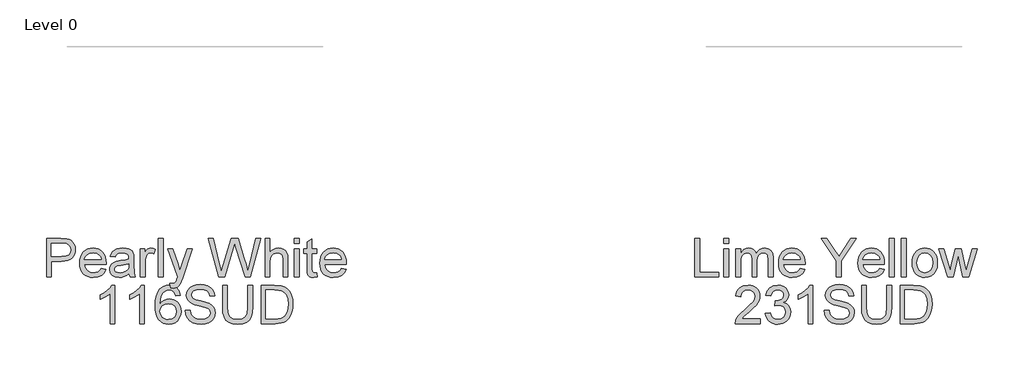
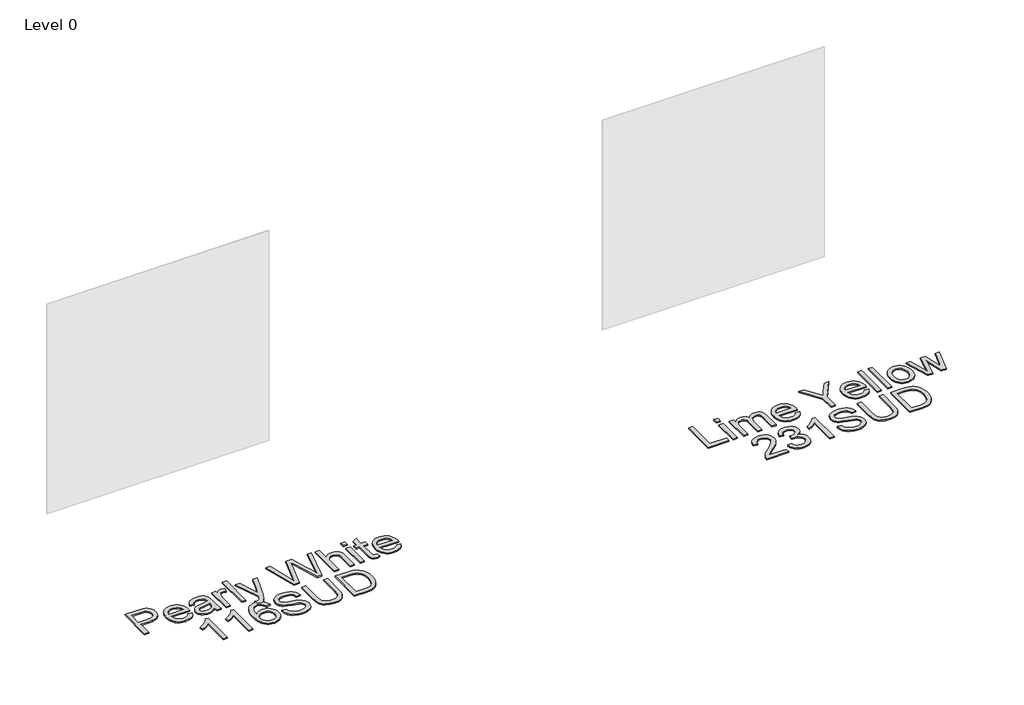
# One storey, part 13 of 37: 2 proxies.
"""IFC4 building model written with IfcOpenShell, lengths in millimetres."""

from ifc_helpers import new_model, si_unit, origin, origin_with_axes, place, context, project, spatial, polyline, outline, extrude, element, save

model = new_model("IFC4")

# Units and contexts
model_context = context("Model", 3, world=origin())
ifc_project = project(units=[si_unit("LENGTHUNIT", "METRE", prefix="MILLI")], contexts=[model_context])

# Site, building, storey
site = spatial("IfcSite", under=ifc_project)
building = spatial("IfcBuilding", under=site)
storey = spatial("IfcBuildingStorey", under=building, Name="Level 0", Elevation=0.0)

# Proxies
placement = place(None, origin())
element("IfcBuildingElementProxy", 1, Name="300mm Arial", ObjectType="300mm Arial", at=placement, inside=storey, context=model_context, shape_type="SweptSolid", body=[
    extrude(outline(polyline([(-611.3993275, -51871.860494), (-611.3993275, -51570.4915635), (-499.7103538, -51570.4915635), (-454.6815975, -51573.3610431), (-434.6044377, -51578.7229232), (-418.077339, -51587.4509235), (-404.7692078, -51599.9405172), (-394.3489503, -51616.5871775), (-387.6167098, -51636.222879), (-385.3726297, -51657.6795964), (-386.8878436, -51676.1794622), (-391.4334855, -51693.198603), (-399.0095554, -51708.7370188), (-409.6160531, -51722.7947095), (-424.1772824, -51734.4473717), (-443.6175465, -51742.7707019), (-467.9368457, -51747.7647), (-497.1351798, -51749.429366), (-573.7282112, -51749.429366), (-573.7282112, -51871.860494), (-611.3993275, -51871.860494)]), holes=[polyline([(-573.7282112, -51711.7582497), (-494.9278878, -51711.7582497), (-461.5242027, -51708.3001589), (-439.4512829, -51697.9258867), (-427.1456302, -51681.2792264), (-423.043746, -51659.0039716), (-425.4625701, -51642.0813998), (-432.7190424, -51627.8075784), (-443.9118521, -51617.0654241), (-458.1396883, -51610.7378538), (-495.8108046, -51608.1626798), (-573.7282112, -51608.1626798), (-573.7282112, -51711.7582497)])]), origin_with_axes(), (0.0, 0.0, 1.0), 10.0),
    extrude(outline(polyline([(-183.3318379, -51805.9360404), (-146.3964856, -51810.64493), (-159.7046168, -51838.4752029), (-180.9406049, -51859.2789297), (-209.6262035, -51872.2467701), (-245.2831659, -51876.5693835), (-268.6574682, -51874.7046817), (-289.4841876, -51869.1105761), (-307.7633242, -51859.7870668), (-323.4948781, -51846.7341537), (-336.1454202, -51830.3151204), (-345.1815217, -51810.8932503), (-350.6031826, -51788.4685435), (-352.4104029, -51763.0409998), (-350.5847885, -51736.7512327), (-345.1079453, -51713.5792656), (-335.9798733, -51693.5250983), (-323.2005725, -51676.5887309), (-307.5104054, -51663.133447), (-289.6497345, -51653.5225298), (-269.6185599, -51647.7559796), (-247.4168815, -51645.8337961), (-225.9302737, -51647.751381), (-206.4992065, -51653.5041357), (-189.1236801, -51663.0920602), (-173.8036942, -51676.5151545), (-161.2980057, -51693.4147337), (-152.365371, -51713.4321128), (-147.0057901, -51736.5672917), (-145.2192632, -51762.8202706), (-145.4399924, -51772.9738137), (-314.7392866, -51772.9738137), (-308.2185782, -51801.1719686), (-293.0710371, -51821.902119), (-271.2096495, -51834.6492302), (-244.5474019, -51838.8982672), (-224.4978332, -51836.9300985), (-207.6120496, -51831.0255925), (-193.8900512, -51820.8168671), (-183.3318379, -51805.9360404)]), holes=[polyline([(-314.7392866, -51735.3026974), (-182.8903795, -51735.3026974), (-187.9855451, -51715.4002814), (-197.9735413, -51701.1632482), (-219.9360964, -51687.9194964), (-247.5640343, -51683.5049125), (-272.957089, -51687.0273826), (-293.9539539, -51697.5947929), (-308.549672, -51714.0667092), (-314.7392866, -51735.3026974)])]), origin_with_axes(), (0.0, 0.0, 1.0), 10.0),
    extrude(outline(polyline([(33.7185393, -51843.6071568), (15.7199126, -51859.0398064), (-2.8121429, -51869.1381672), (-22.3006916, -51874.7115794), (-43.1687977, -51876.5693835), (-74.6502995, -51872.0996173), (-97.8728504, -51858.6903186), (-112.1926571, -51838.3280501), (-116.965926, -51812.9993748), (-115.1633042, -51797.3827841), (-109.7554389, -51783.2009331), (-101.4137146, -51771.0608273), (-90.8095161, -51761.5694718), (-64.4323771, -51749.2086368), (-31.8380323, -51743.5432541), (6.6792126, -51737.5835657), (33.4978101, -51730.5938078), (33.7185393, -51722.2060983), (31.1249712, -51705.3938912), (23.344267, -51694.3942195), (5.9434486, -51686.2272392), (-18.2999749, -51683.5049125), (-40.7407766, -51685.3167313), (-56.4125496, -51690.7521878), (-67.0995215, -51700.8045633), (-74.5859201, -51716.4671392), (-112.2570364, -51711.7582497), (-105.717934, -51691.1568579), (-95.959864, -51674.9700502), (-82.0723187, -51662.590821), (-63.1447901, -51653.4121652), (-39.9958155, -51647.7283884), (-13.4439325, -51645.8337961), (12.0226986, -51647.5076592), (32.2102231, -51652.5292485), (47.4313406, -51660.0800264), (57.9987509, -51669.3414556), (65.0069029, -51680.7917827), (69.5502456, -51694.9092543), (71.3896556, -51727.8714811), (71.3896556, -51774.7396473), (73.3026419, -51840.1858542), (80.8074346, -51871.860494), (43.1363183, -51871.860494), (33.7185393, -51843.6071568)]), holes=[polyline([(33.7185393, -51768.2649241), (-27.0555664, -51779.8164188), (-59.4659701, -51785.9232599), (-74.1444617, -51795.8560738), (-79.2948097, -51810.3506244), (-76.4897095, -51821.5526311), (-68.0744088, -51830.7312869), (-54.2328487, -51836.8565221), (-35.1489702, -51838.8982672), (-14.9154605, -51836.64499), (2.9636045, -51829.8851583), (17.4581551, -51819.9247533), (27.5381217, -51808.069756), (32.007888, -51795.8560738), (33.4978101, -51778.933502), (33.7185393, -51768.2649241)])]), origin_with_axes(), (0.0, 0.0, 1.0), 10.0),
    extrude(outline(polyline([(123.1874405, -51871.860494), (123.1874405, -51650.5426857), (156.1496672, -51650.5426857), (156.1496672, -51683.2841833), (168.3265613, -51664.3014723), (179.5469621, -51653.1178596), (190.8041512, -51647.654812), (203.0914098, -51645.8337961), (221.8533916, -51648.7400639), (240.9096789, -51657.4588672), (228.3281147, -51691.2304343), (215.0843629, -51685.4362929), (201.840611, -51683.5049125), (190.592619, -51685.3627165), (180.5402435, -51690.9361288), (172.4192485, -51699.8020848), (166.9653979, -51711.5375205), (162.3852671, -51732.5803706), (160.8585568, -51755.5362071), (160.8585568, -51871.860494), (123.1874405, -51871.860494)])), origin_with_axes(), (0.0, 0.0, 1.0), 10.0),
    extrude(outline(polyline([(264.4541266, -51871.860494), (264.4541266, -51570.4915635), (302.1252429, -51570.4915635), (302.1252429, -51871.860494), (264.4541266, -51871.860494)])), origin_with_axes(), (0.0, 0.0, 1.0), 10.0),
    extrude(outline(polyline([(358.6319174, -51956.6205057), (353.9230279, -51920.3473409), (373.0528916, -51923.6582789), (390.9319566, -51919.5012124), (401.89484, -51907.9129295), (412.1955359, -51880.1746271), (415.1385919, -51871.0511536), (335.0874697, -51650.5426857), (374.8187252, -51650.5426857), (417.2723074, -51773.4152721), (432.0611636, -51822.5643066), (446.8500198, -51779.1542312), (490.4808245, -51650.5426857), (529.9177743, -51650.5426857), (452.8832846, -51877.1579947), (432.870504, -51926.3070293), (422.6249905, -51941.9971964), (411.0183135, -51952.8681093), (397.5354384, -51959.2140737), (381.6613303, -51961.3293952), (358.6319174, -51956.6205057)])), origin_with_axes(), (0.0, 0.0, 1.0), 10.0),
    extrude(outline(polyline([(737.476796, -51871.860494), (655.2919583, -51570.4915635), (694.140297, -51570.4915635), (741.8178036, -51768.5592297), (756.5330834, -51829.7012173), (772.2784328, -51775.622564), (832.0224688, -51570.4915635), (888.0141085, -51570.4915635), (931.4241839, -51719.189466), (950.0206187, -51774.3717653), (963.7242231, -51829.7012173), (977.9980445, -51770.3250633), (1026.1170094, -51570.4915635), (1064.9653481, -51570.4915635), (982.706934, -51871.860494), (942.4606437, -51871.860494), (870.2086199, -51639.359073), (860.1286532, -51606.9118811), (848.7978878, -51645.9809489), (782.9470106, -51871.860494), (737.476796, -51871.860494)])), origin_with_axes(), (0.0, 0.0, 1.0), 10.0),
    extrude(outline(polyline([(1097.9275749, -51871.860494), (1097.9275749, -51570.4915635), (1135.5986912, -51570.4915635), (1135.5986912, -51681.2976205), (1149.4356527, -51665.7821973), (1164.9740685, -51654.6997522), (1182.2139385, -51648.0502852), (1201.1552627, -51645.8337961), (1223.9087641, -51648.2526203), (1243.4616922, -51655.5090926), (1258.8575537, -51667.0329961), (1269.1398555, -51682.2541137), (1274.9339969, -51703.1682051), (1276.8653774, -51731.7710302), (1276.8653774, -51871.860494), (1239.194261, -51871.860494), (1239.194261, -51735.6705794), (1236.1960228, -51712.0893435), (1227.201308, -51695.9393239), (1212.7067574, -51686.6135153), (1193.2090117, -51683.5049125), (1177.2889183, -51685.6018398), (1162.3437123, -51691.8926219), (1149.9644831, -51701.7702535), (1141.7423205, -51714.6277292), (1137.1345985, -51731.7158479), (1135.5986912, -51754.2854083), (1135.5986912, -51871.860494), (1097.9275749, -51871.860494)])), origin_with_axes(), (0.0, 0.0, 1.0), 10.0),
    extrude(outline(polyline([(1328.6631623, -51608.1626798), (1328.6631623, -51570.4915635), (1366.3342786, -51570.4915635), (1366.3342786, -51608.1626798), (1328.6631623, -51608.1626798)])), origin_with_axes(), (0.0, 0.0, 1.0), 10.0),
    extrude(outline(polyline([(1328.6631623, -51871.860494), (1328.6631623, -51650.5426857), (1366.3342786, -51650.5426857), (1366.3342786, -51871.860494), (1328.6631623, -51871.860494)])), origin_with_axes(), (0.0, 0.0, 1.0), 10.0),
    extrude(outline(polyline([(1502.8920752, -51840.4433716), (1507.6009647, -51872.96414), (1479.4212039, -51876.5693835), (1461.3398038, -51875.005885), (1447.8569287, -51870.3153896), (1438.328785, -51863.0865084), (1432.1115793, -51853.9078526), (1428.6902768, -51838.1441091), (1427.5498426, -51811.1599648), (1427.5498426, -51688.213802), (1399.2965053, -51688.213802), (1399.2965053, -51650.5426857), (1427.5498426, -51650.5426857), (1427.5498426, -51596.758338), (1465.2209589, -51574.6118419), (1465.2209589, -51650.5426857), (1502.8920752, -51650.5426857), (1502.8920752, -51688.213802), (1465.2209589, -51688.213802), (1465.2209589, -51810.0563188), (1467.2075217, -51829.4804881), (1473.6454566, -51836.3598814), (1486.4845382, -51838.8982672), (1502.8920752, -51840.4433716)])), origin_with_axes(), (0.0, 0.0, 1.0), 10.0),
    extrude(outline(polyline([(1695.5150879, -51805.9360404), (1732.4504402, -51810.64493), (1719.142309, -51838.4752029), (1697.9063208, -51859.2789297), (1669.2207223, -51872.2467701), (1633.5637599, -51876.5693835), (1610.1894576, -51874.7046817), (1589.3627382, -51869.1105761), (1571.0836015, -51859.7870668), (1555.3520477, -51846.7341537), (1542.7015056, -51830.3151204), (1533.6654041, -51810.8932503), (1528.2437432, -51788.4685435), (1526.4365229, -51763.0409998), (1528.2621373, -51736.7512327), (1533.7389805, -51713.5792656), (1542.8670525, -51693.5250983), (1555.6463533, -51676.5887309), (1571.3365204, -51663.133447), (1589.1971913, -51653.5225298), (1609.2283659, -51647.7559796), (1631.4300443, -51645.8337961), (1652.9166521, -51647.751381), (1672.3477192, -51653.5041357), (1689.7232457, -51663.0920602), (1705.0432315, -51676.5151545), (1717.5489201, -51693.4147337), (1726.4815548, -51713.4321128), (1731.8411356, -51736.5672917), (1733.6276626, -51762.8202706), (1733.4069334, -51772.9738137), (1564.1076392, -51772.9738137), (1570.6283476, -51801.1719686), (1585.7758887, -51821.902119), (1607.6372763, -51834.6492302), (1634.2995239, -51838.8982672), (1654.3490926, -51836.9300985), (1671.2348762, -51831.0255925), (1684.9568746, -51820.8168671), (1695.5150879, -51805.9360404)]), holes=[polyline([(1564.1076392, -51735.3026974), (1695.9565463, -51735.3026974), (1690.8613806, -51715.4002814), (1680.8733845, -51701.1632482), (1658.9108293, -51687.9194964), (1631.2828915, -51683.5049125), (1605.8898368, -51687.0273826), (1584.8929719, -51697.5947929), (1570.2972538, -51714.0667092), (1564.1076392, -51735.3026974)])]), origin_with_axes(), (0.0, 0.0, 1.0), 10.0),
    extrude(outline(polyline([(-76.9403649, -52237.7849475), (-114.6114812, -52237.7849475), (-114.6114812, -52002.9290818), (-150.2960347, -52028.3497277), (-189.9537138, -52047.3692268), (-189.9537138, -52011.7582497), (-160.3668044, -51995.6634124), (-134.7346263, -51976.5151545), (-114.5287078, -51956.1528861), (-101.2205766, -51936.4160171), (-76.9403649, -51936.4160171), (-76.9403649, -52237.7849475)])), origin_with_axes(), (0.0, 0.0, 1.0), 10.0),
    extrude(outline(polyline([(153.7952225, -52237.7849475), (116.1241062, -52237.7849475), (116.1241062, -52002.9290818), (80.4395526, -52028.3497277), (40.7818736, -52047.3692268), (40.7818736, -52011.7582497), (70.368783, -51995.6634124), (96.000961, -51976.5151545), (116.2068796, -51956.1528861), (129.5150108, -51936.4160171), (153.7952225, -51936.4160171), (153.7952225, -52237.7849475)])), origin_with_axes(), (0.0, 0.0, 1.0), 10.0),
    extrude(outline(polyline([(436.3285948, -52016.4671392), (398.6574785, -52021.1760288), (392.5874255, -52002.5060175), (384.3836571, -51989.7589064), (367.2955384, -51978.0050766), (346.6389644, -51974.0871334), (329.1277814, -51976.3680017), (312.646668, -51983.2106069), (298.4924082, -51997.622384), (286.9317165, -52017.4604206), (279.1234212, -52045.5206198), (276.2263505, -52084.5988847), (291.3371034, -52066.9681401), (309.4460946, -52054.5429257), (329.5416486, -52047.1760888), (350.6120899, -52044.7204764), (368.7118841, -52046.3989381), (385.4137266, -52051.4343229), (400.7176176, -52059.8266309), (414.6235571, -52071.5758621), (426.1796502, -52085.9830407), (434.4340025, -52102.349191), (439.3866139, -52120.6743129), (441.0374843, -52140.9584064), (437.9288815, -52167.9333537), (428.6030729, -52192.9401323), (413.8326108, -52214.1485293), (394.3900473, -52229.7283318), (371.1582993, -52239.3024607), (345.0202836, -52242.4938371), (322.563387, -52240.3785156), (302.2815928, -52234.0325512), (284.1749008, -52223.4559438), (268.2433112, -52208.6486935), (255.2547775, -52188.9854009), (245.9772534, -52163.8406665), (240.410739, -52133.2144904), (238.5552342, -52097.1068726), (240.6153733, -52056.6260575), (246.7957909, -52022.0773396), (257.0964867, -51993.4607189), (271.5174609, -51970.7761954), (287.1478472, -51955.7436174), (305.270634, -51945.0060617), (325.8858213, -51938.5635282), (348.9934091, -51936.4160171), (382.0476064, -51941.7319119), (408.5167159, -51957.6795964), (427.0579685, -51983.0082718), (436.3285948, -52016.4671392)]), holes=[polyline([(276.2263505, -52140.3697952), (278.4060513, -52157.0624407), (284.9451538, -52173.0009282), (295.0986968, -52186.7045325), (308.1217195, -52196.6925287), (323.8394777, -52202.7901727), (342.0772276, -52204.8227207), (366.9368534, -52200.6104719), (386.4805844, -52187.9737254), (399.1449221, -52168.1080976), (403.366368, -52142.2092052), (399.2001044, -52117.3495793), (386.7013136, -52098.3944595), (366.8264888, -52086.3923095), (340.5321232, -52082.3915928), (315.7092856, -52086.3923095), (294.951544, -52098.3944595), (280.9076489, -52116.8897269), (276.2263505, -52140.3697952)])]), origin_with_axes(), (0.0, 0.0, 1.0), 10.0),
    extrude(outline(polyline([(473.9997111, -52134.1893777), (511.6708274, -52134.1893777), (515.9934408, -52155.0942721), (523.8109332, -52171.8972822), (536.0062214, -52185.2330045), (553.462222, -52195.7360355), (574.7993778, -52202.5510494), (598.638131, -52204.8227207), (619.6257989, -52203.1028724), (638.0015045, -52197.9433274), (652.8915283, -52189.7763471), (663.4221504, -52179.0341929), (669.6853414, -52166.700949), (671.7730717, -52153.7606998), (670.2095732, -52141.1515444), (665.5190778, -52130.2530403), (655.9909341, -52120.9548229), (639.9144909, -52113.1465276), (585.0632854, -52098.7623415), (549.0568351, -52089.2433949), (526.0182252, -52080.1843008), (507.2654405, -52067.510766), (493.9757034, -52052.1516928), (486.0570435, -52034.4381747), (483.4174902, -52014.7013056), (486.6824429, -51992.637583), (496.477301, -51972.0637824), (512.5445471, -51954.6261758), (534.6266639, -51941.9710352), (561.1325616, -51934.2731044), (590.4711508, -51931.7071275), (622.2561551, -51934.3926661), (650.068034, -51942.4492818), (672.9135059, -51955.7114277), (689.7992895, -51974.013557), (700.4862614, -51996.2152354), (704.7352985, -52021.1760288), (667.0641821, -52021.1760288), (660.1480006, -51998.6984389), (645.7270264, -51982.4748429), (623.1942542, -51972.6523936), (591.9426787, -51969.3782438), (559.9553393, -51972.6156054), (538.0111782, -51982.3276901), (525.3192494, -51996.6199056), (521.0886065, -52013.5976597), (524.0868447, -52028.0738162), (533.0815595, -52039.7172813), (554.3451388, -52050.1283418), (594.5914291, -52060.7601314), (636.1253064, -52070.8584922), (661.2516466, -52079.669266), (682.7267581, -52093.3360821), (697.7087523, -52110.2034716), (706.5103291, -52130.0874934), (709.444188, -52152.8042066), (706.0688707, -52176.0267576), (695.9429188, -52197.869751), (679.4801995, -52216.668521), (657.0945801, -52230.7584014), (630.1748151, -52239.5599781), (600.109659, -52242.4938371), (563.2018979, -52239.3300519), (532.8240421, -52229.8386964), (508.6266039, -52213.9829824), (490.2600953, -52191.7261217), (478.4694773, -52164.6132187), (473.9997111, -52134.1893777)])), origin_with_axes(), (0.0, 0.0, 1.0), 10.0),
    extrude(outline(polyline([(963.7242231, -51936.4160171), (1001.3953394, -51936.4160171), (1001.3953394, -52110.277048), (998.8385595, -52150.9923878), (991.1682199, -52182.3451308), (976.8392162, -52206.533372), (954.306444, -52225.7552063), (923.514721, -52238.3091794), (884.4088649, -52242.4938371), (846.1583345, -52238.8518053), (815.5781436, -52227.92571), (792.6590953, -52210.0926303), (777.3919925, -52185.7296452), (768.811145, -52153.052527), (765.9508625, -52110.277048), (765.9508625, -51936.4160171), (803.6219788, -51936.4160171), (803.6219788, -52108.9526728), (805.4797828, -52142.8070134), (811.0531951, -52166.3790523), (821.1515558, -52182.7038158), (836.5842055, -52194.8163305), (856.7073507, -52202.3211232), (880.8771977, -52204.8227207), (919.1921075, -52199.8747079), (933.5349068, -52193.6896919), (944.6679357, -52185.0306694), (953.0050614, -52172.8537754), (958.9601512, -52156.1151446), (963.7242231, -52108.9526728), (963.7242231, -51936.4160171)])), origin_with_axes(), (0.0, 0.0, 1.0), 10.0),
    extrude(outline(polyline([(1067.3197929, -52237.7849475), (1067.3197929, -51936.4160171), (1171.2832447, -51936.4160171), (1225.0675924, -51940.7570246), (1249.0902867, -51949.12634), (1269.3605847, -51962.3149095), (1290.2010997, -51985.270746), (1305.0451382, -52013.8183889), (1313.9294884, -52047.406015), (1316.8909384, -52085.4818015), (1314.8859816, -52117.8278259), (1308.8711109, -52146.2926953), (1299.7108493, -52170.5269217), (1288.2697192, -52190.1810173), (1275.0995438, -52205.6964405), (1260.752146, -52217.5146496), (1244.2802296, -52226.2794381), (1224.7364986, -52232.6345996), (1176.2864399, -52237.7849475), (1067.3197929, -52237.7849475)]), holes=[polyline([(1104.9909092, -52200.1138312), (1171.6511267, -52200.1138312), (1199.2238823, -52198.7526678), (1220.1379737, -52194.6691777), (1235.9201113, -52188.1024841), (1248.0970053, -52179.2917103), (1261.1844073, -52162.9853408), (1271.0160536, -52141.8781114), (1277.16888, -52115.8780514), (1279.2198221, -52084.8931903), (1275.2007113, -52043.8375597), (1263.1433789, -52013.5240833), (1245.3286933, -51992.7019623), (1224.0375228, -51980.1203981), (1202.3692733, -51975.5954496), (1170.6210571, -51974.0871334), (1104.9909092, -51974.0871334), (1104.9909092, -52200.1138312)])]), origin_with_axes(), (0.0, 0.0, 1.0), 10.0),
])
element("IfcBuildingElementProxy", 2, Name="300mm Arial", ObjectType="300mm Arial", at=placement, inside=storey, context=model_context, shape_type="SweptSolid", body=[
    extrude(outline(polyline([(4461.5884604, -51871.860494), (4461.5884604, -51570.4915635), (4499.2595767, -51570.4915635), (4499.2595767, -51834.1893777), (4649.9440419, -51834.1893777), (4649.9440419, -51871.860494), (4461.5884604, -51871.860494)])), origin_with_axes(), (0.0, 0.0, 1.0), 10.0),
    extrude(outline(polyline([(4687.6151582, -51871.860494), (4687.6151582, -51650.5426857), (4725.2862745, -51650.5426857), (4725.2862745, -51871.860494), (4687.6151582, -51871.860494)])), origin_with_axes(), (0.0, 0.0, 1.0), 10.0),
    extrude(outline(polyline([(4687.6151582, -51608.1626798), (4687.6151582, -51570.4915635), (4725.2862745, -51570.4915635), (4725.2862745, -51608.1626798), (4687.6151582, -51608.1626798)])), origin_with_axes(), (0.0, 0.0, 1.0), 10.0),
    extrude(outline(polyline([(4781.792949, -51871.860494), (4781.792949, -51650.5426857), (4819.4640653, -51650.5426857), (4819.4640653, -51686.9630032), (4830.7948307, -51670.2335695), (4845.3629577, -51657.1277734), (4862.6718056, -51648.6572905), (4882.2247336, -51645.8337961), (4903.1756133, -51648.7124728), (4919.9694263, -51657.3485026), (4932.5142024, -51671.1716686), (4940.7179709, -51689.6117536), (4954.4491663, -51670.4588972), (4970.1117423, -51656.7782855), (4987.7056987, -51648.5699185), (5007.2310356, -51645.8337961), (5035.5487522, -51650.3863358), (5056.4904348, -51664.0439549), (5069.4306839, -51687.1745354), (5073.7441003, -51720.1459592), (5073.7441003, -51871.860494), (5036.072984, -51871.860494), (5036.072984, -51736.332767), (5032.5781051, -51704.8788564), (5027.6668804, -51696.2060383), (5019.9229644, -51689.3910244), (5009.9625594, -51684.9764404), (4998.4018677, -51683.5049125), (4977.993614, -51687.2757029), (4961.3561508, -51698.5880743), (4950.2920998, -51718.2145787), (4946.6040828, -51746.9277684), (4946.6040828, -51871.860494), (4908.9329665, -51871.860494), (4908.9329665, -51732.1389122), (4906.7532657, -51710.8385447), (4900.2141632, -51695.6450183), (4888.7086538, -51686.5399389), (4871.6297322, -51683.5049125), (4857.1167875, -51685.5282634), (4843.7442769, -51691.5983163), (4832.7078171, -51701.5679184), (4825.2030244, -51715.2899168), (4820.898805, -51734.3278101), (4819.4640653, -51760.2450966), (4819.4640653, -51871.860494), (4781.792949, -51871.860494)])), origin_with_axes(), (0.0, 0.0, 1.0), 10.0),
    extrude(outline(polyline([(5285.2026712, -51805.9360404), (5322.1380235, -51810.64493), (5308.8298923, -51838.4752029), (5287.5939041, -51859.2789297), (5258.9083056, -51872.2467701), (5223.2513432, -51876.5693835), (5199.8770409, -51874.7046817), (5179.0503214, -51869.1105761), (5160.7711848, -51859.7870668), (5145.039631, -51846.7341537), (5132.3890889, -51830.3151204), (5123.3529874, -51810.8932503), (5117.9313265, -51788.4685435), (5116.1241062, -51763.0409998), (5117.9497206, -51736.7512327), (5123.4265638, -51713.5792656), (5132.5546358, -51693.5250983), (5145.3339366, -51676.5887309), (5161.0241037, -51663.133447), (5178.8847745, -51653.5225298), (5198.9159492, -51647.7559796), (5221.1176276, -51645.8337961), (5242.6042354, -51647.751381), (5262.0353025, -51653.5041357), (5279.410829, -51663.0920602), (5294.7308148, -51676.5151545), (5307.2365034, -51693.4147337), (5316.1691381, -51713.4321128), (5321.5287189, -51736.5672917), (5323.3152459, -51762.8202706), (5323.0945167, -51772.9738137), (5153.7952225, -51772.9738137), (5160.3159308, -51801.1719686), (5175.463472, -51821.902119), (5197.3248596, -51834.6492302), (5223.9871072, -51838.8982672), (5244.0366759, -51836.9300985), (5260.9224595, -51831.0255925), (5274.6444579, -51820.8168671), (5285.2026712, -51805.9360404)]), holes=[polyline([(5153.7952225, -51735.3026974), (5285.6441295, -51735.3026974), (5280.5489639, -51715.4002814), (5270.5609677, -51701.1632482), (5248.5984126, -51687.9194964), (5220.9704748, -51683.5049125), (5195.5774201, -51687.0273826), (5174.5805552, -51697.5947929), (5159.984837, -51714.0667092), (5153.7952225, -51735.3026974)])]), origin_with_axes(), (0.0, 0.0, 1.0), 10.0),
    extrude(outline(polyline([(5568.1775018, -51871.860494), (5568.1775018, -51744.2054417), (5450.4552634, -51570.4915635), (5494.8954084, -51570.4915635), (5557.7296532, -51663.2714027), (5589.8825396, -51710.5810273), (5622.1090023, -51659.8868884), (5679.1307116, -51570.4915635), (5723.5708566, -51570.4915635), (5605.8486182, -51744.2054417), (5605.8486182, -51871.860494), (5568.1775018, -51871.860494)])), origin_with_axes(), (0.0, 0.0, 1.0), 10.0),
    extrude(outline(polyline([(5906.7760902, -51805.9360404), (5943.7114425, -51810.64493), (5930.4033113, -51838.4752029), (5909.1673232, -51859.2789297), (5880.4817246, -51872.2467701), (5844.8247622, -51876.5693835), (5821.4504599, -51874.7046817), (5800.6237405, -51869.1105761), (5782.3446039, -51859.7870668), (5766.61305, -51846.7341537), (5753.9625079, -51830.3151204), (5744.9264064, -51810.8932503), (5739.5047455, -51788.4685435), (5737.6975252, -51763.0409998), (5739.5231396, -51736.7512327), (5744.9999828, -51713.5792656), (5754.1280548, -51693.5250983), (5766.9073556, -51676.5887309), (5782.5975227, -51663.133447), (5800.4581936, -51653.5225298), (5820.4893682, -51647.7559796), (5842.6910466, -51645.8337961), (5864.1776544, -51647.751381), (5883.6087216, -51653.5041357), (5900.984248, -51663.0920602), (5916.3042339, -51676.5151545), (5928.8099225, -51693.4147337), (5937.7425572, -51713.4321128), (5943.102138, -51736.5672917), (5944.8886649, -51762.8202706), (5944.6679357, -51772.9738137), (5775.3686415, -51772.9738137), (5781.8893499, -51801.1719686), (5797.036891, -51821.902119), (5818.8982786, -51834.6492302), (5845.5605262, -51838.8982672), (5865.6100949, -51836.9300985), (5882.4958785, -51831.0255925), (5896.2178769, -51820.8168671), (5906.7760902, -51805.9360404)]), holes=[polyline([(5775.3686415, -51735.3026974), (5907.2175486, -51735.3026974), (5902.122383, -51715.4002814), (5892.1343868, -51701.1632482), (5870.1718317, -51687.9194964), (5842.5438938, -51683.5049125), (5817.1508391, -51687.0273826), (5796.1539743, -51697.5947929), (5781.5582561, -51714.0667092), (5775.3686415, -51735.3026974)])]), origin_with_axes(), (0.0, 0.0, 1.0), 10.0),
    extrude(outline(polyline([(5982.5597812, -51871.860494), (5982.5597812, -51570.4915635), (6020.2308975, -51570.4915635), (6020.2308975, -51871.860494), (5982.5597812, -51871.860494)])), origin_with_axes(), (0.0, 0.0, 1.0), 10.0),
    extrude(outline(polyline([(6076.737572, -51871.860494), (6076.737572, -51570.4915635), (6114.4086883, -51570.4915635), (6114.4086883, -51871.860494), (6076.737572, -51871.860494)])), origin_with_axes(), (0.0, 0.0, 1.0), 10.0),
    extrude(outline(polyline([(6161.4975837, -51761.2015898), (6163.5347302, -51732.5389839), (6169.6461699, -51707.8403064), (6179.8319026, -51687.1055575), (6194.0919284, -51670.334737), (6208.4485233, -51659.6155754), (6224.2950402, -51651.9590314), (6241.6314793, -51647.3651049), (6260.4578404, -51645.8337961), (6281.2408738, -51647.698498), (6300.032746, -51653.2926036), (6316.8334569, -51662.6161129), (6331.6430064, -51675.669026), (6343.7302292, -51692.0098843), (6352.3639598, -51711.1972296), (6357.5441982, -51733.2310619), (6359.2709443, -51758.1113811), (6356.2175237, -51796.1687735), (6347.057262, -51825.1394806), (6332.0568737, -51846.8353213), (6311.4830731, -51863.0681143), (6287.0465116, -51873.1940662), (6260.4578404, -51876.5693835), (6239.3713043, -51874.7115794), (6220.4046881, -51869.1381672), (6203.557992, -51859.8491468), (6188.8312159, -51846.8445183), (6176.8727518, -51830.3450108), (6168.3309917, -51810.5713536), (6163.2059357, -51787.5235466), (6161.4975837, -51761.2015898)]), holes=[polyline([(6199.1687, -51761.1280134), (6203.5281016, -51795.2214773), (6216.6063065, -51819.5108861), (6236.2879933, -51834.0514219), (6260.4578404, -51838.8982672), (6284.5173229, -51834.0238308), (6304.1622214, -51819.4005215), (6317.2404263, -51794.789216), (6321.599828, -51759.950791), (6317.2128352, -51726.8506085), (6304.0518568, -51702.8922936), (6284.3793671, -51688.3517577), (6260.4578404, -51683.5049125), (6236.2879933, -51688.3333636), (6216.6063065, -51702.8187172), (6203.5281016, -51727.0529436), (6199.1687, -51761.1280134)])]), origin_with_axes(), (0.0, 0.0, 1.0), 10.0),
    extrude(outline(polyline([(6438.3655732, -51871.860494), (6371.0431681, -51650.5426857), (6410.1858124, -51650.5426857), (6448.3719635, -51779.669266), (6459.7763054, -51825.8016682), (6469.120508, -51781.3615232), (6499.5075608, -51650.5426857), (6544.3891642, -51650.5426857), (6574.6290643, -51780.9936412), (6582.9431973, -51821.2399314), (6594.862574, -51778.7863492), (6633.1223015, -51650.5426857), (6672.4120986, -51650.5426857), (6604.5746587, -51871.860494), (6559.0308677, -51871.860494), (6530.1153428, -51742.0717261), (6521.7276333, -51701.6047066), (6484.424399, -51871.860494), (6438.3655732, -51871.860494)])), origin_with_axes(), (0.0, 0.0, 1.0), 10.0),
    extrude(outline(polyline([(4974.85742, -52200.1138312), (4974.85742, -52237.7849475), (4777.0840594, -52237.7849475), (4781.1307614, -52211.8124787), (4790.4197817, -52191.5145896), (4804.0130215, -52171.8237058), (4823.6763141, -52151.213117), (4851.1754932, -52128.156113), (4891.8264537, -52092.0484951), (4916.21703, -52065.3954446), (4928.4123181, -52043.7639833), (4932.4774142, -52022.7211331), (4928.6422444, -52003.8579838), (4917.136735, -51988.1770138), (4899.4508081, -51977.6096035), (4877.0743857, -51974.0871334), (4853.5759233, -51977.52683), (4835.3197793, -51987.84592), (4823.5383584, -52004.2350629), (4819.4640653, -52025.8849183), (4781.792949, -52021.1760288), (4790.9256195, -51984.7373171), (4799.4719781, -51970.2013798), (4810.6716856, -51958.1210548), (4824.2672246, -51948.6251008), (4840.0010776, -51941.8422765), (4877.8837261, -51936.4160171), (4898.0735498, -51937.9243332), (4916.042286, -51942.4492818), (4931.7899347, -51949.9908627), (4945.3164958, -51960.549076), (4956.180511, -51973.3421723), (4963.9405218, -51987.5884026), (4968.5965283, -52003.2877667), (4970.1485305, -52020.4402648), (4968.4746674, -52038.4572855), (4963.4530782, -52056.1616065), (4954.5411368, -52074.1694302), (4941.1962175, -52093.0969588), (4919.9234411, -52115.6941104), (4887.2279288, -52144.7108027), (4843.8914297, -52180.9471793), (4826.8952816, -52200.1138312), (4974.85742, -52200.1138312)])), origin_with_axes(), (0.0, 0.0, 1.0), 10.0),
    extrude(outline(polyline([(5012.5285363, -52157.7338254), (5050.1996526, -52153.0249358), (5058.6333474, -52176.6981422), (5070.9849854, -52192.6826149), (5087.8615719, -52201.7876943), (5109.8701123, -52204.8227207), (5135.6954283, -52200.6472601), (5155.6346325, -52188.1208782), (5168.3817436, -52169.4324728), (5172.6307806, -52146.7709419), (5168.4185318, -52125.2590422), (5155.7817853, -52107.8122386), (5136.6519215, -52096.2515469), (5112.960321, -52092.397983), (5086.5463938, -52096.5182614), (5090.7402485, -52058.8471451), (5096.7735132, -52059.2886035), (5119.3430736, -52056.5846708), (5139.5214011, -52048.4728728), (5153.7584343, -52034.7508744), (5158.504112, -52015.2163404), (5155.0644154, -51998.9467592), (5144.7453254, -51985.7489926), (5128.999976, -51977.0025982), (5109.2815011, -51974.0871334), (5089.5262379, -51977.0301893), (5073.3762183, -51985.8593572), (5061.5856004, -52000.574637), (5054.9085422, -52021.1760288), (5017.2374259, -52016.4671392), (5028.329068, -51982.6403898), (5048.0659371, -51957.3852908), (5075.0684755, -51941.6583355), (5107.9571259, -51936.4160171), (5131.6395293, -51939.0003881), (5153.3905523, -51946.7535011), (5171.7294697, -51958.9855775), (5185.1755567, -51975.0068384), (5193.4253104, -51993.4653175), (5196.1752283, -52013.0090485), (5193.5632662, -52031.2192072), (5185.7273797, -52047.7371088), (5172.7779334, -52061.8085951), (5154.8252921, -52072.6795081), (5178.406528, -52082.2076518), (5195.8809227, -52098.4312477), (5206.6966534, -52120.4673793), (5210.3018969, -52147.4331295), (5208.4992752, -52166.5445992), (5203.0914098, -52184.1477526), (5194.078301, -52200.2425899), (5181.4599485, -52214.829111), (5166.0870796, -52226.9324287), (5148.8104214, -52235.5776555), (5129.6299739, -52240.7647917), (5108.5457371, -52242.4938371), (5089.4894497, -52241.0177105), (5072.1254195, -52236.589331), (5056.4536466, -52229.2086985), (5042.4741307, -52218.875813), (5030.7524907, -52206.1976797), (5021.8543449, -52191.781304), (5015.7796935, -52175.6266859), (5012.5285363, -52157.7338254)])), origin_with_axes(), (0.0, 0.0, 1.0), 10.0),
    extrude(outline(polyline([(5384.5308099, -52237.7849475), (5346.8596935, -52237.7849475), (5346.8596935, -52002.9290818), (5311.17514, -52028.3497277), (5271.5174609, -52047.3692268), (5271.5174609, -52011.7582497), (5301.1043704, -51995.6634124), (5326.7365484, -51976.5151545), (5346.942467, -51956.1528861), (5360.2505982, -51936.4160171), (5384.5308099, -51936.4160171), (5384.5308099, -52237.7849475)])), origin_with_axes(), (0.0, 0.0, 1.0), 10.0),
    extrude(outline(polyline([(5473.9997111, -52134.1893777), (5511.6708274, -52134.1893777), (5515.9934408, -52155.0942721), (5523.8109332, -52171.8972822), (5536.0062214, -52185.2330045), (5553.462222, -52195.7360355), (5574.7993778, -52202.5510494), (5598.638131, -52204.8227207), (5619.6257989, -52203.1028724), (5638.0015045, -52197.9433274), (5652.8915283, -52189.7763471), (5663.4221504, -52179.0341929), (5669.6853414, -52166.700949), (5671.7730717, -52153.7606998), (5670.2095732, -52141.1515444), (5665.5190778, -52130.2530403), (5655.9909341, -52120.9548229), (5639.9144909, -52113.1465276), (5585.0632854, -52098.7623415), (5549.0568351, -52089.2433949), (5526.0182252, -52080.1843008), (5507.2654405, -52067.510766), (5493.9757034, -52052.1516928), (5486.0570435, -52034.4381747), (5483.4174902, -52014.7013056), (5486.6824429, -51992.637583), (5496.477301, -51972.0637824), (5512.5445471, -51954.6261758), (5534.6266639, -51941.9710352), (5561.1325616, -51934.2731044), (5590.4711508, -51931.7071275), (5622.2561551, -51934.3926661), (5650.068034, -51942.4492818), (5672.9135059, -51955.7114277), (5689.7992895, -51974.013557), (5700.4862614, -51996.2152354), (5704.7352985, -52021.1760288), (5667.0641821, -52021.1760288), (5660.1480006, -51998.6984389), (5645.7270264, -51982.4748429), (5623.1942542, -51972.6523936), (5591.9426787, -51969.3782438), (5559.9553393, -51972.6156054), (5538.0111782, -51982.3276901), (5525.3192494, -51996.6199056), (5521.0886065, -52013.5976597), (5524.0868447, -52028.0738162), (5533.0815595, -52039.7172813), (5554.3451388, -52050.1283418), (5594.5914291, -52060.7601314), (5636.1253064, -52070.8584922), (5661.2516466, -52079.669266), (5682.7267581, -52093.3360821), (5697.7087523, -52110.2034716), (5706.5103291, -52130.0874934), (5709.444188, -52152.8042066), (5706.0688707, -52176.0267576), (5695.9429188, -52197.869751), (5679.4801995, -52216.668521), (5657.0945801, -52230.7584014), (5630.1748151, -52239.5599781), (5600.109659, -52242.4938371), (5563.2018979, -52239.3300519), (5532.8240421, -52229.8386964), (5508.6266039, -52213.9829824), (5490.2600953, -52191.7261217), (5478.4694773, -52164.6132187), (5473.9997111, -52134.1893777)])), origin_with_axes(), (0.0, 0.0, 1.0), 10.0),
    extrude(outline(polyline([(5963.7242231, -51936.4160171), (6001.3953394, -51936.4160171), (6001.3953394, -52110.277048), (5998.8385595, -52150.9923878), (5991.1682199, -52182.3451308), (5976.8392162, -52206.533372), (5954.306444, -52225.7552063), (5923.514721, -52238.3091794), (5884.4088649, -52242.4938371), (5846.1583345, -52238.8518053), (5815.5781436, -52227.92571), (5792.6590953, -52210.0926303), (5777.3919925, -52185.7296452), (5768.811145, -52153.052527), (5765.9508625, -52110.277048), (5765.9508625, -51936.4160171), (5803.6219788, -51936.4160171), (5803.6219788, -52108.9526728), (5805.4797828, -52142.8070134), (5811.0531951, -52166.3790523), (5821.1515558, -52182.7038158), (5836.5842055, -52194.8163305), (5856.7073507, -52202.3211232), (5880.8771977, -52204.8227207), (5919.1921075, -52199.8747079), (5933.5349068, -52193.6896919), (5944.6679357, -52185.0306694), (5953.0050614, -52172.8537754), (5958.9601512, -52156.1151446), (5963.7242231, -52108.9526728), (5963.7242231, -51936.4160171)])), origin_with_axes(), (0.0, 0.0, 1.0), 10.0),
    extrude(outline(polyline([(6067.3197929, -52237.7849475), (6067.3197929, -51936.4160171), (6171.2832447, -51936.4160171), (6225.0675924, -51940.7570246), (6249.0902867, -51949.12634), (6269.3605847, -51962.3149095), (6290.2010997, -51985.270746), (6305.0451382, -52013.8183889), (6313.9294884, -52047.406015), (6316.8909384, -52085.4818015), (6314.8859816, -52117.8278259), (6308.8711109, -52146.2926953), (6299.7108493, -52170.5269217), (6288.2697192, -52190.1810173), (6275.0995438, -52205.6964405), (6260.752146, -52217.5146496), (6244.2802296, -52226.2794381), (6224.7364986, -52232.6345996), (6176.2864399, -52237.7849475), (6067.3197929, -52237.7849475)]), holes=[polyline([(6104.9909092, -52200.1138312), (6171.6511267, -52200.1138312), (6199.2238823, -52198.7526678), (6220.1379737, -52194.6691777), (6235.9201113, -52188.1024841), (6248.0970053, -52179.2917103), (6261.1844073, -52162.9853408), (6271.0160536, -52141.8781114), (6277.16888, -52115.8780514), (6279.2198221, -52084.8931903), (6275.2007113, -52043.8375597), (6263.1433789, -52013.5240833), (6245.3286933, -51992.7019623), (6224.0375228, -51980.1203981), (6202.3692733, -51975.5954496), (6170.6210571, -51974.0871334), (6104.9909092, -51974.0871334), (6104.9909092, -52200.1138312)])]), origin_with_axes(), (0.0, 0.0, 1.0), 10.0),
])

save(model, "model.ifc")
